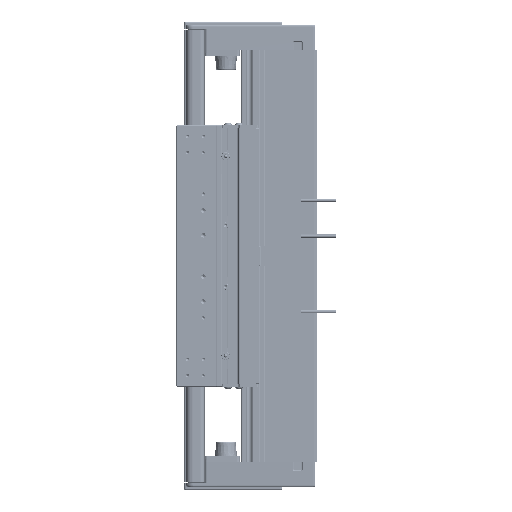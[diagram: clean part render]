
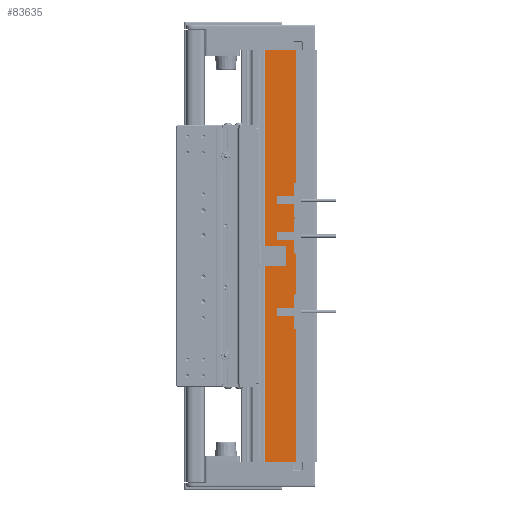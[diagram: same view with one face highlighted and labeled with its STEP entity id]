
A CAD part, left-side view. The second image highlights one B-rep face of the part: STEP entity #83635.
In plain terms, the highlighted planar face has unit normal (-1, 0, 0).
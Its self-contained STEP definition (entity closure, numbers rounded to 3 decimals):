
#3001 = EDGE_CURVE ( 'NONE', #102988, #35690, #97944, .T. ) ;
#6103 = CARTESIAN_POINT ( 'NONE',  ( -97.5, 36.95, 150. ) ) ;
#6135 = VECTOR ( 'NONE', #80103, 1000. ) ;
#7378 = ORIENTED_EDGE ( 'NONE', *, *, #41887, .F. ) ;
#13522 = CARTESIAN_POINT ( 'NONE',  ( -97.5, 36.95, -150. ) ) ;
#25301 = CARTESIAN_POINT ( 'NONE',  ( -97.5, 36.95, 150. ) ) ;
#27091 = VECTOR ( 'NONE', #125752, 1000. ) ;
#31608 = CARTESIAN_POINT ( 'NONE',  ( -97.5, 36.95, 150. ) ) ;
#34873 = VECTOR ( 'NONE', #64698, 1000. ) ;
#35634 = DIRECTION ( 'NONE',  ( 0., 0., -1. ) ) ;
#35690 = VERTEX_POINT ( 'NONE', #108824 ) ;
#40195 = VERTEX_POINT ( 'NONE', #95820 ) ;
#41887 = EDGE_CURVE ( 'NONE', #35690, #40195, #66024, .T. ) ;
#42751 = LINE ( 'NONE', #25301, #34873 ) ;
#49816 = AXIS2_PLACEMENT_3D ( 'NONE', #6103, #85482, #124875 ) ;
#63028 = VECTOR ( 'NONE', #35634, 1000. ) ;
#63326 = EDGE_CURVE ( 'NONE', #102988, #120131, #42751, .T. ) ;
#64698 = DIRECTION ( 'NONE',  ( 0., 0., -1. ) ) ;
#64891 = FACE_OUTER_BOUND ( 'NONE', #100876, .T. ) ;
#66024 = LINE ( 'NONE', #95659, #63028 ) ;
#75450 = ORIENTED_EDGE ( 'NONE', *, *, #63326, .T. ) ;
#80103 = DIRECTION ( 'NONE',  ( 0., -1., 0. ) ) ;
#83635 = ADVANCED_FACE ( 'NONE', ( #64891 ), #124261, .F. ) ;
#85482 = DIRECTION ( 'NONE',  ( 1., 0., 0. ) ) ;
#95659 = CARTESIAN_POINT ( 'NONE',  ( -97.5, 14.45, 150. ) ) ;
#95820 = CARTESIAN_POINT ( 'NONE',  ( -97.5, 14.45, -150. ) ) ;
#96041 = CARTESIAN_POINT ( 'NONE',  ( -97.5, 36.95, 150. ) ) ;
#97944 = LINE ( 'NONE', #96041, #27091 ) ;
#98155 = EDGE_CURVE ( 'NONE', #120131, #40195, #119487, .T. ) ;
#99636 = ORIENTED_EDGE ( 'NONE', *, *, #98155, .T. ) ;
#100876 = EDGE_LOOP ( 'NONE', ( #99636, #7378, #111743, #75450 ) ) ;
#102471 = CARTESIAN_POINT ( 'NONE',  ( -97.5, 36.95, -150. ) ) ;
#102988 = VERTEX_POINT ( 'NONE', #31608 ) ;
#108824 = CARTESIAN_POINT ( 'NONE',  ( -97.5, 14.45, 150. ) ) ;
#111743 = ORIENTED_EDGE ( 'NONE', *, *, #3001, .F. ) ;
#119487 = LINE ( 'NONE', #102471, #6135 ) ;
#120131 = VERTEX_POINT ( 'NONE', #13522 ) ;
#124261 = PLANE ( 'NONE',  #49816 ) ;
#124875 = DIRECTION ( 'NONE',  ( 0., 1., 0. ) ) ;
#125752 = DIRECTION ( 'NONE',  ( 0., -1., 0. ) ) ;
